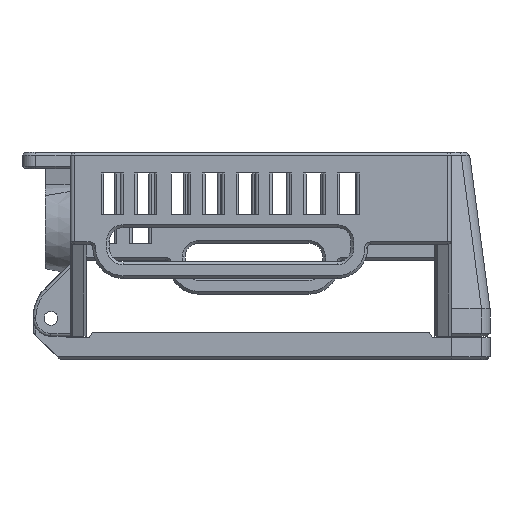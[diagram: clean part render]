
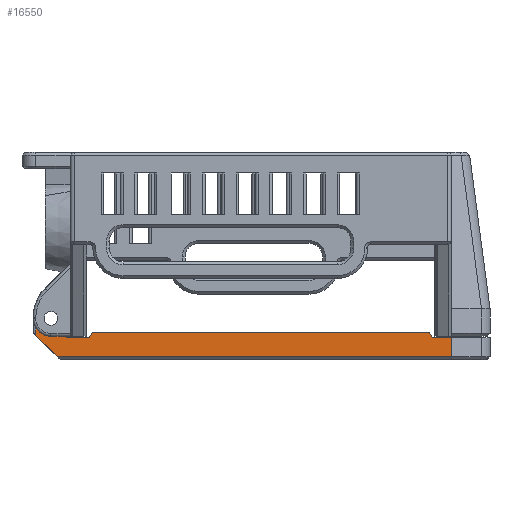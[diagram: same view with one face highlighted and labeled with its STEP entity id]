
A CAD part, left-side view. The second image highlights one B-rep face of the part: STEP entity #16550.
In plain terms, the highlighted planar face has unit normal (-1, 0, 0).
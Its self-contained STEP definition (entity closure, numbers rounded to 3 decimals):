
#494=FACE_BOUND('',#2009,.T.);
#593=PLANE('',#17533);
#1060=FACE_OUTER_BOUND('',#2008,.T.);
#2008=EDGE_LOOP('',(#11398,#11399,#11400,#11401,#11402,#11403,#11404,#11405,
#11406,#11407,#11408));
#2009=EDGE_LOOP('',(#11409));
#3071=LINE('',#24543,#4792);
#3073=LINE('',#24547,#4794);
#3074=LINE('',#24549,#4795);
#3075=LINE('',#24551,#4796);
#3076=LINE('',#24553,#4797);
#3077=LINE('',#24557,#4798);
#3078=LINE('',#24559,#4799);
#3079=LINE('',#24561,#4800);
#3080=LINE('',#24563,#4801);
#3081=LINE('',#24564,#4802);
#4792=VECTOR('',#19357,10.);
#4794=VECTOR('',#19361,10.);
#4795=VECTOR('',#19362,10.);
#4796=VECTOR('',#19363,10.);
#4797=VECTOR('',#19364,10.);
#4798=VECTOR('',#19367,10.);
#4799=VECTOR('',#19368,10.);
#4800=VECTOR('',#19369,10.);
#4801=VECTOR('',#19370,10.);
#4802=VECTOR('',#19371,10.);
#6497=CIRCLE('',#17534,2.2);
#6498=CIRCLE('',#17535,1.);
#7215=VERTEX_POINT('',#24540);
#7216=VERTEX_POINT('',#24542);
#7217=VERTEX_POINT('',#24546);
#7218=VERTEX_POINT('',#24548);
#7219=VERTEX_POINT('',#24550);
#7220=VERTEX_POINT('',#24552);
#7221=VERTEX_POINT('',#24554);
#7222=VERTEX_POINT('',#24556);
#7223=VERTEX_POINT('',#24558);
#7224=VERTEX_POINT('',#24560);
#7225=VERTEX_POINT('',#24562);
#7226=VERTEX_POINT('',#24565);
#8819=EDGE_CURVE('',#7215,#7216,#3071,.T.);
#8821=EDGE_CURVE('',#7217,#7215,#3073,.T.);
#8822=EDGE_CURVE('',#7218,#7217,#3074,.T.);
#8823=EDGE_CURVE('',#7218,#7219,#3075,.T.);
#8824=EDGE_CURVE('',#7220,#7219,#3076,.T.);
#8825=EDGE_CURVE('',#7221,#7220,#6497,.T.);
#8826=EDGE_CURVE('',#7222,#7221,#3077,.T.);
#8827=EDGE_CURVE('',#7223,#7222,#3078,.T.);
#8828=EDGE_CURVE('',#7224,#7223,#3079,.T.);
#8829=EDGE_CURVE('',#7225,#7224,#3080,.T.);
#8830=EDGE_CURVE('',#7225,#7216,#3081,.T.);
#8831=EDGE_CURVE('',#7226,#7226,#6498,.T.);
#11398=ORIENTED_EDGE('',*,*,#8819,.F.);
#11399=ORIENTED_EDGE('',*,*,#8821,.F.);
#11400=ORIENTED_EDGE('',*,*,#8822,.F.);
#11401=ORIENTED_EDGE('',*,*,#8823,.T.);
#11402=ORIENTED_EDGE('',*,*,#8824,.F.);
#11403=ORIENTED_EDGE('',*,*,#8825,.F.);
#11404=ORIENTED_EDGE('',*,*,#8826,.F.);
#11405=ORIENTED_EDGE('',*,*,#8827,.F.);
#11406=ORIENTED_EDGE('',*,*,#8828,.F.);
#11407=ORIENTED_EDGE('',*,*,#8829,.F.);
#11408=ORIENTED_EDGE('',*,*,#8830,.T.);
#11409=ORIENTED_EDGE('',*,*,#8831,.F.);
#16550=ADVANCED_FACE('',(#1060,#494),#593,.T.);
#17533=AXIS2_PLACEMENT_3D('',#24545,#19359,#19360);
#17534=AXIS2_PLACEMENT_3D('',#24555,#19365,#19366);
#17535=AXIS2_PLACEMENT_3D('',#24566,#19372,#19373);
#19357=DIRECTION('',(0.,-0.447,-0.894));
#19359=DIRECTION('center_axis',(-1.,0.,0.));
#19360=DIRECTION('ref_axis',(0.,1.,0.));
#19361=DIRECTION('',(0.,-1.,0.));
#19362=DIRECTION('',(0.,-0.447,0.894));
#19363=DIRECTION('',(0.,1.,0.));
#19364=DIRECTION('',(0.,0.,-1.));
#19365=DIRECTION('center_axis',(1.,0.,0.));
#19366=DIRECTION('ref_axis',(0.,0.,1.));
#19367=DIRECTION('',(0.,0.,1.));
#19368=DIRECTION('',(0.,0.707,0.707));
#19369=DIRECTION('',(0.,1.,0.));
#19370=DIRECTION('',(0.,0.,-1.));
#19371=DIRECTION('',(0.,1.,0.));
#19372=DIRECTION('center_axis',(-1.,0.,0.));
#19373=DIRECTION('ref_axis',(0.,-1.,0.));
#24540=CARTESIAN_POINT('',(-34.9,-24.5,-26.12));
#24542=CARTESIAN_POINT('',(-34.9,-24.9,-26.92));
#24543=CARTESIAN_POINT('',(-34.9,-25.64,-28.4));
#24545=CARTESIAN_POINT('Origin',(-34.9,-33.3,-26.92));
#24546=CARTESIAN_POINT('',(-34.9,24.5,-26.12));
#24547=CARTESIAN_POINT('',(-34.9,23.7,-26.12));
#24548=CARTESIAN_POINT('',(-34.9,24.9,-26.92));
#24549=CARTESIAN_POINT('',(-34.9,18.98,-15.08));
#24550=CARTESIAN_POINT('',(-34.9,28.3,-26.92));
#24551=CARTESIAN_POINT('',(-34.9,23.7,-26.92));
#24552=CARTESIAN_POINT('',(-34.9,28.3,-24.12));
#24553=CARTESIAN_POINT('',(-34.9,28.3,-25.52));
#24554=CARTESIAN_POINT('',(-34.9,32.7,-24.12));
#24555=CARTESIAN_POINT('Origin',(-34.9,30.5,-24.12));
#24556=CARTESIAN_POINT('',(-34.9,32.7,-26.589));
#24557=CARTESIAN_POINT('',(-34.9,32.7,-25.989));
#24558=CARTESIAN_POINT('',(-34.9,29.569,-29.72));
#24559=CARTESIAN_POINT('',(-34.9,30.151,-29.137));
#24560=CARTESIAN_POINT('',(-34.9,-27.7,-29.72));
#24561=CARTESIAN_POINT('',(-34.9,-18.05,-29.72));
#24562=CARTESIAN_POINT('',(-34.9,-27.7,-26.92));
#24563=CARTESIAN_POINT('',(-34.9,-27.7,-26.92));
#24564=CARTESIAN_POINT('',(-34.9,23.7,-26.92));
#24565=CARTESIAN_POINT('',(-34.9,31.5,-24.12));
#24566=CARTESIAN_POINT('Origin',(-34.9,30.5,-24.12));
